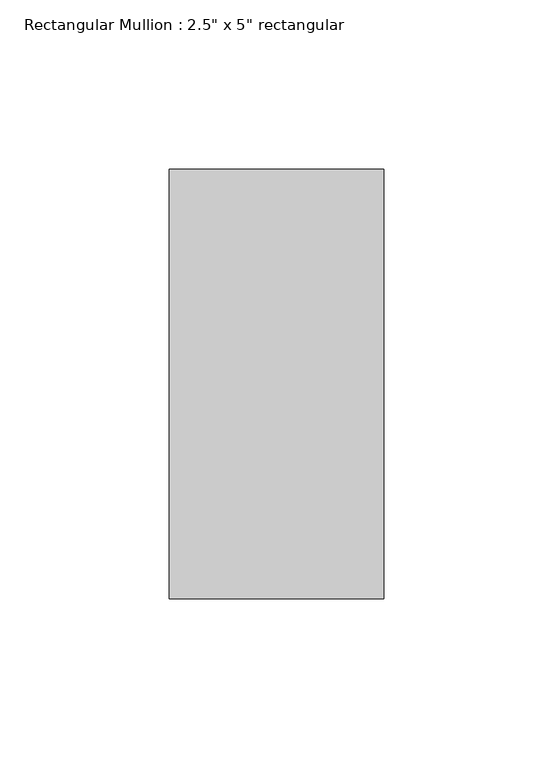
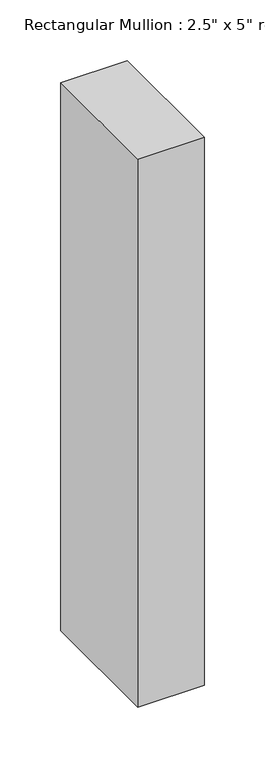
"""IFC4 building model written with IfcOpenShell, lengths in millimetres: member geometry."""

from ifc_helpers import new_model, si_unit, frame, origin, place, context, project, spatial, polyline, outline, extrude, source, transform, mapped, element, save


def member_73c075c8(model_context):
    return source(origin(), model_context, "Body", "SweptSolid", [
        extrude(outline(polyline([(0.0, 63.5), (0.0, -63.5), (-63.5, -63.5), (-63.5, 63.5), (0.0, 63.5)])), frame((0.0, 0.0, -552.45), z_axis=(0.0, 0.0, 1.0), x_axis=(1.0, 0.0, 0.0)), (0.0, 0.0, 1.0), 552.45),
    ])


if __name__ == "__main__":
    model = new_model("IFC4")
    model_context = context("Model", 3, world=origin())
    ifc_project = project(units=[si_unit("LENGTHUNIT", "METRE", prefix="MILLI")], contexts=[model_context])
    site = spatial("IfcSite", under=ifc_project)
    building = spatial("IfcBuilding", under=site)
    placement = place(None, origin())
    member_shape = member_73c075c8(model_context)
    element("IfcMember", 1, ObjectType="Rectangular Mullion : 2.5\" x 5\" rectangular", at=placement, inside=building, context=model_context, shape_type="MappedRepresentation", body=[
        mapped(member_shape, transform((0.0, 0.0, 0.0), x_axis=(1.0, 0.0, 0.0), y_axis=(0.0, 1.0, 0.0), z_axis=(0.0, 0.0, 1.0))),
    ])
    save(model, "model.ifc")
